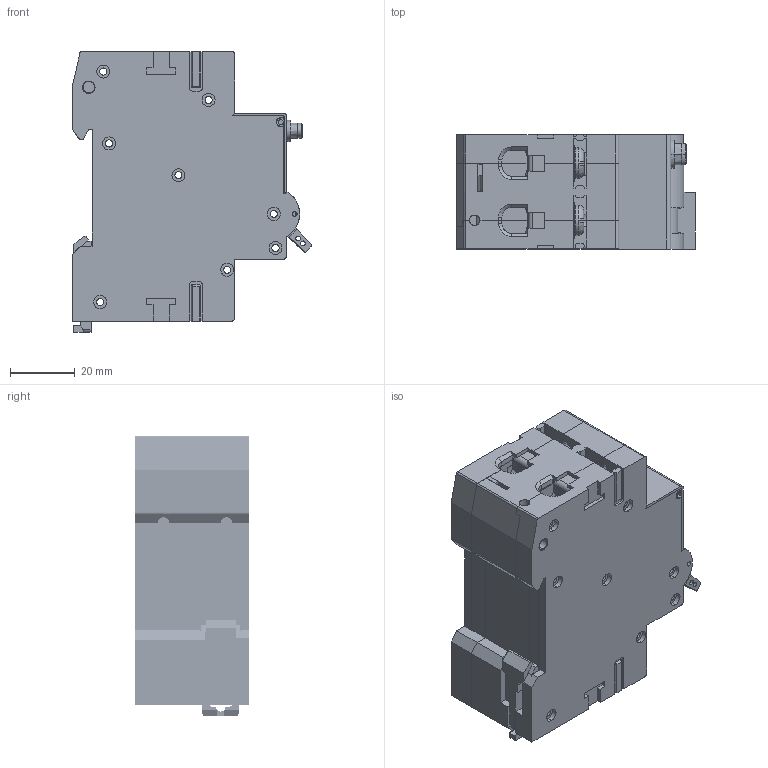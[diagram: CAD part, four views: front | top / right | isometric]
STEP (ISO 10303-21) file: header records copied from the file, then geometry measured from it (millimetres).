
FILE_DESCRIPTION (( 'STEP AP214' ), '1' );
FILE_NAME ('EVOKMA2C4003.STEP', '2026-05-20T09:59:32', ( '' ), ( '' ), 'SwSTEP 2.0', 'SolidWorks 2025', '' );
FILE_SCHEMA (( 'AUTOMOTIVE_DESIGN' ));
Length unit declared in the file: millimetre
Products named in the file (1): EVOKMA2C4003
Bounding box: 73.58 x 35.2 x 86.5 mm (x, y, z)
Surface area: 97995.3 mm2
Topology: 19 solids, 20 shells, 4133 faces, 12580 edges, 8691 vertices
Faces by surface type: plane 2902, cylinder 1008, bspline 187, cone 36
Entity records: 177933 total; most frequent: CARTESIAN_POINT 67505, ORIENTED_EDGE 25100, DIRECTION 18611, EDGE_CURVE 12550, VERTEX_POINT 8691, VECTOR 8263, LINE 8263, AXIS2_PLACEMENT_3D 5174
